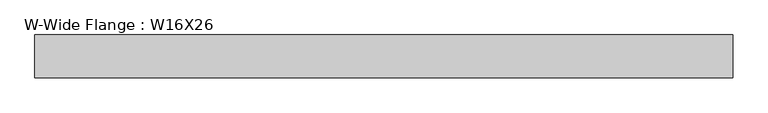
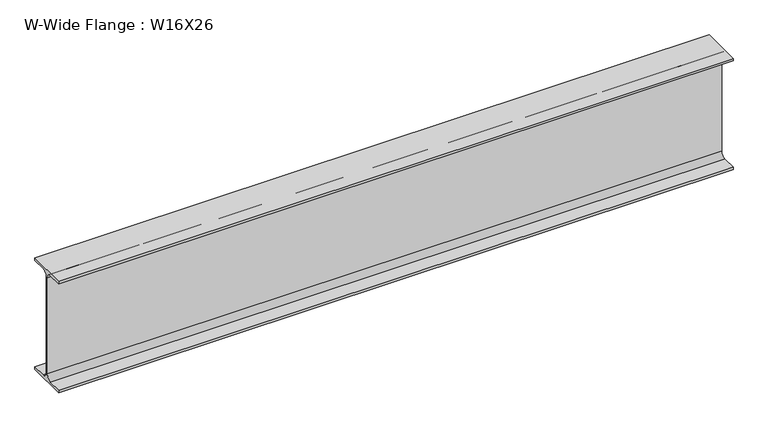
"""IFC4 building model written with IfcOpenShell, lengths in millimetres: beam geometry, W-Wide Flange : W16X26."""

from ifc_helpers import new_model, si_unit, point, frame, frame_2d, origin, place, context, project, spatial, polyline, circle_curve, trimmed, segment, composite_curve, outline, extrude, source, transform, mapped, element, save


def w_wide_flange_w16x26_d8ea63e7(model_context):
    return source(origin(), model_context, "Body", "SweptSolid", [
        extrude(outline(composite_curve([segment(polyline([(-69.85, -190.5496094), (-21.43125, -190.5496094)]), True, "CONTINUOUS"), segment(trimmed(circle_curve(frame_2d((-21.43125, -172.2933594)), 18.25625), [point((-21.43125, -190.5496094))], [point((-3.175, -172.2933594))], True, "CARTESIAN"), True, "CONTINUOUS"), segment(polyline([(-3.175, -172.2933594), (-3.175, 172.2933594)]), True, "CONTINUOUS"), segment(trimmed(circle_curve(frame_2d((-21.43125, 172.2933594)), 18.25625), [point((-3.175, 172.2933594))], [point((-21.43125, 190.5496094))], True, "CARTESIAN"), True, "CONTINUOUS"), segment(polyline([(-21.43125, 190.5496094), (-69.85, 190.5496094), (-69.85, 199.2808594), (69.85, 199.2808594), (69.85, 190.5496094), (21.43125, 190.5496094)]), True, "CONTINUOUS"), segment(trimmed(circle_curve(frame_2d((21.43125, 172.2933594)), 18.25625), [point((21.43125, 190.5496094))], [point((3.175, 172.2933594))], True, "CARTESIAN"), True, "CONTINUOUS"), segment(polyline([(3.175, 172.2933594), (3.175, -172.2933594)]), True, "CONTINUOUS"), segment(trimmed(circle_curve(frame_2d((21.43125, -172.2933594)), 18.25625), [point((3.175, -172.2933594))], [point((21.43125, -190.5496094))], True, "CARTESIAN"), True, "CONTINUOUS"), segment(polyline([(21.43125, -190.5496094), (69.85, -190.5496094), (69.85, -199.2808594), (-69.85, -199.2808594), (-69.85, -190.5496094)]), True, "CONTINUOUS")], self_intersect=False)), frame((-1079.5, 0.0, 0.0), z_axis=(1.0, 0.0, 0.0), x_axis=(0.0, 1.0, 0.0)), (0.0, 0.0, 1.0), 2284.7779979),
    ])


if __name__ == "__main__":
    model = new_model("IFC4")
    model_context = context("Model", 3, world=origin())
    ifc_project = project(units=[si_unit("LENGTHUNIT", "METRE", prefix="MILLI")], contexts=[model_context])
    site = spatial("IfcSite", under=ifc_project)
    building = spatial("IfcBuilding", under=site)
    placement = place(None, origin())
    w_wide_flange_w16x26_shape = w_wide_flange_w16x26_d8ea63e7(model_context)
    element("IfcBeam", 1, ObjectType="W-Wide Flange : W16X26", at=placement, inside=building, context=model_context, shape_type="MappedRepresentation", body=[
        mapped(w_wide_flange_w16x26_shape, transform((0.0, 0.0, 0.0), x_axis=(1.0, 0.0, 0.0), y_axis=(0.0, 1.0, 0.0), z_axis=(0.0, 0.0, 1.0))),
    ])
    save(model, "model.ifc")
